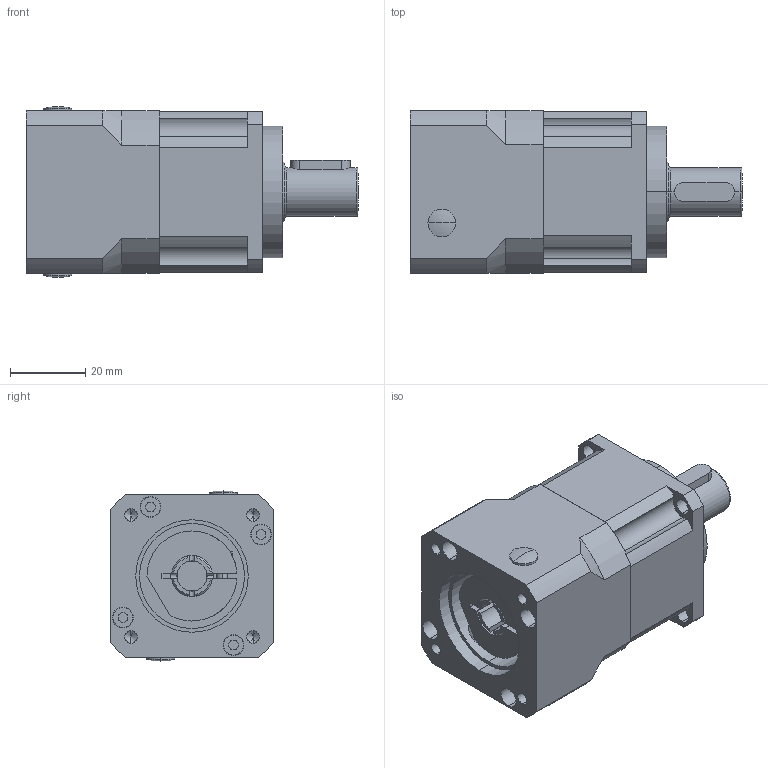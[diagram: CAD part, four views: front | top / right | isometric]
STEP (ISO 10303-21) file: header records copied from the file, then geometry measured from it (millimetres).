
FILE_DESCRIPTION (( 'STEP AP203' ), '1' );
FILE_NAME ('AB042-L1-8-30-46-M4.STEP', '2024-04-30T05:38:00', ( '' ), ( '' ), 'SwSTEP 2.0', 'SolidWorks 2015', '' );
FILE_SCHEMA (( 'CONFIG_CONTROL_DESIGN' ));
Length unit declared in the file: millimetre
Products named in the file (1): AB042-L1-8-30-46-M4
Bounding box: 88.5 x 43.3 x 45.6 mm (x, y, z)
Volume: 107507 mm3; surface area: 29786.1 mm2
Topology: 10 solids, 10 shells, 420 faces, 1052 edges, 664 vertices
Faces by surface type: plane 166, cylinder 138, cone 72, torus 28, bspline 16
Entity records: 13384 total; most frequent: CARTESIAN_POINT 3208, DIRECTION 2165, ORIENTED_EDGE 2076, EDGE_CURVE 1038, AXIS2_PLACEMENT_3D 841, VERTEX_POINT 664, VECTOR 483, LINE 483
